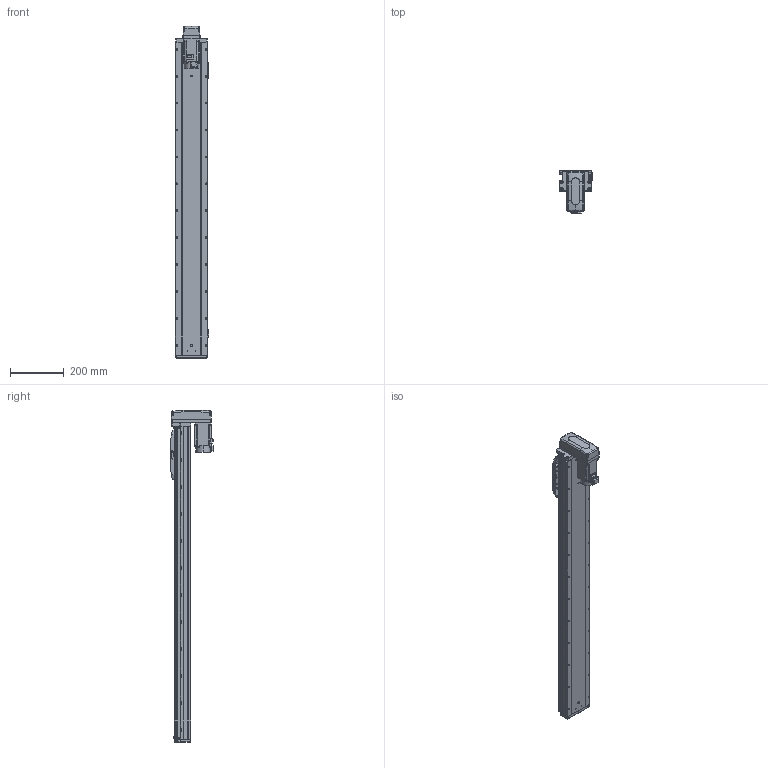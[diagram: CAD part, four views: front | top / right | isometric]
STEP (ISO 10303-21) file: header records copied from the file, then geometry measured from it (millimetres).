
FILE_DESCRIPTION (( 'STEP AP203' ), '1' );
FILE_NAME ('GTH12-950-BM-M40-C4.step', '2022-09-29T02:03:11', ( '微软用户' ), ( '微软中国' ), 'SwSTEP 2.0', 'SolidWorks 2020', '' );
FILE_SCHEMA (( 'CONFIG_CONTROL_DESIGN' ));
Length unit declared in the file: millimetre
Products named in the file (18): GBT 70.1-M5×16; BTH-M3X5X6; GTH120-001_950; GBT 70.3-M3℅8; hg-kn43j_-s100_; GTH120-003; GTH80-022; CTHA86-033_M40B; GTH120-006; GTH80-028; GTH120-027-1_GTH120-027-2; GTH120-004; GTH50-023; GTH12-950-BM-M40-C4; GTH120-013; GTH50-024; GBT 70.1-M3℅6; GBT96.1-2002 3×0.8
Assembly tree (59 placements, depth 2):
  GTH12-950-BM-M40-C4
    GTH120-001_950
    GTH120-003
    GTH120-006
    GTH120-004
    GTH120-013
    GBT 70.1-M3℅6  x14
    GBT 70.1-M5×16  x10
    GBT 70.3-M3℅8  x4
    GTH80-022
    GTH80-028  x2
    GTH50-023  x3
    GTH50-024  x3
    GBT96.1-2002 3×0.8  x6
    BTH-M3X5X6  x8
    hg-kn43j_-s100_
    CTHA86-033_M40B
    GTH120-027-1_GTH120-027-2
Bounding box: 125.7 x 159.8 x 1232 mm (x, y, z)
Volume: 8818116.1 mm3; surface area: 756882.3 mm2
Topology: 61 solids, 61 shells, 2520 faces, 5899 edges, 3621 vertices
Faces by surface type: plane 1286, cylinder 742, cone 304, torus 174, sphere 8, bspline 6
Entity records: 48009 total; most frequent: CARTESIAN_POINT 8170, DIRECTION 7971, ORIENTED_EDGE 7408, EDGE_CURVE 3704, AXIS2_PLACEMENT_3D 2787, VECTOR 2397, LINE 2397, VERTEX_POINT 2342
